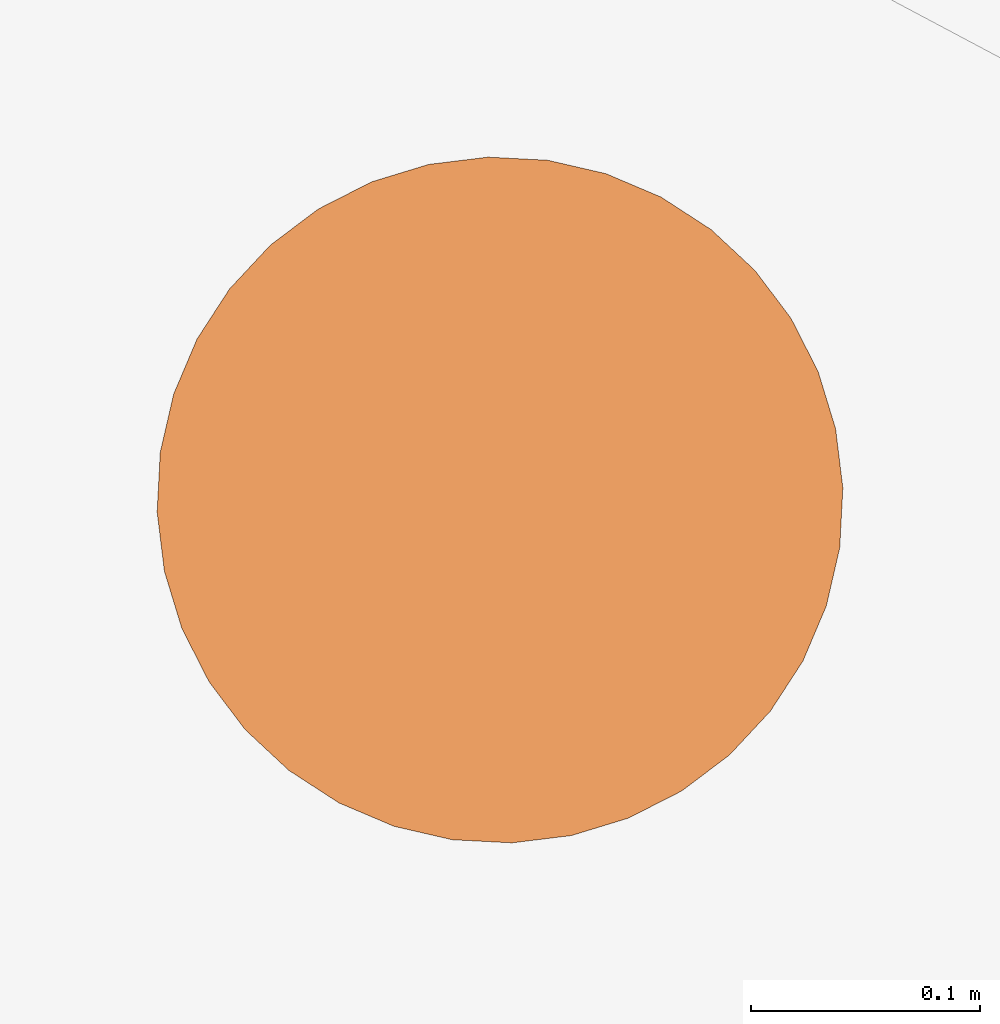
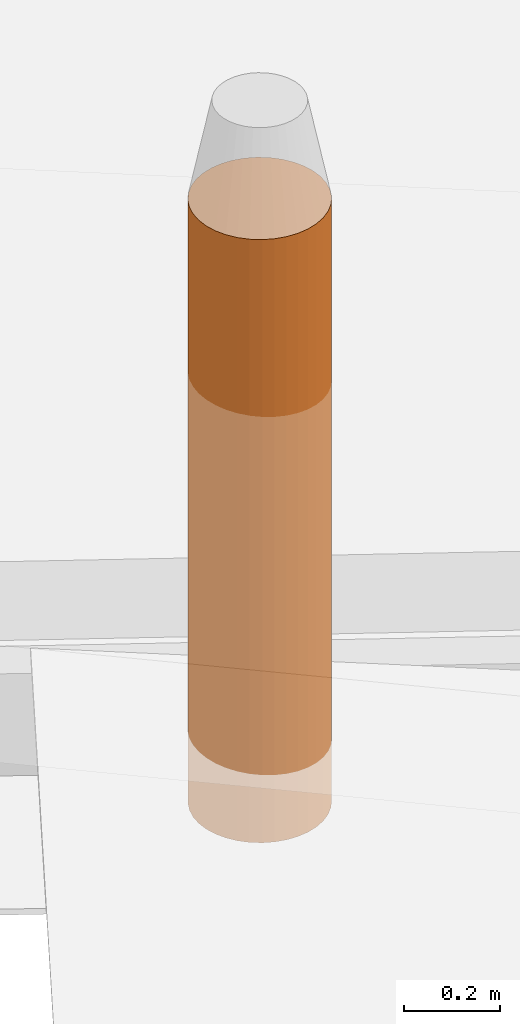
# One storey, part 3 of 4: 1 proxy.
"""IFC2X3 building model written with IfcOpenShell, lengths in metres."""

from ifc_helpers import new_model, entity, si_unit, converted_unit, derived_unit, money_unit, direction, frame, origin_with_axes, place, context, subcontext, project, spatial, faceted_brep, type_object, element, save


model = new_model("IFC2X3")

# Units and contexts
model_context = context("Model", 3, precision=1e-05, world=origin_with_axes(), true_north=direction((0.0, 1.0)))
body_context = subcontext(model_context, "Body", "Model", "MODEL_VIEW")
ifc_project = project(units=[si_unit("LENGTHUNIT", "METRE"), si_unit("AREAUNIT", "SQUARE_METRE"), si_unit("VOLUMEUNIT", "CUBIC_METRE"), converted_unit("PLANEANGLEUNIT", "DEGREE", entity("IfcPlaneAngleMeasure", 0.0174532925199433), si_unit("PLANEANGLEUNIT", "RADIAN"), dimensions=[0, 0, 0, 0, 0, 0, 0]), money_unit("CHF"), converted_unit("TIMEUNIT", "Year", entity("IfcTimeMeasure", 31557600.0), si_unit("TIMEUNIT", "SECOND"), dimensions=[0, 0, 1, 0, 0, 0, 0]), si_unit("MASSUNIT", "GRAM", prefix="KILO"), si_unit("THERMODYNAMICTEMPERATUREUNIT", "DEGREE_CELSIUS"), si_unit("LUMINOUSINTENSITYUNIT", "LUMEN"), si_unit("ENERGYUNIT", "JOULE", prefix="MEGA"), derived_unit("THERMALCONDUCTANCEUNIT", [(si_unit("POWERUNIT", "WATT"), 1), (si_unit("LENGTHUNIT", "METRE"), -1), (si_unit("THERMODYNAMICTEMPERATUREUNIT", "KELVIN"), -1)]), derived_unit("SPECIFICHEATCAPACITYUNIT", [(si_unit("ENERGYUNIT", "JOULE"), 1), (si_unit("MASSUNIT", "GRAM", prefix="KILO"), -1), (si_unit("THERMODYNAMICTEMPERATUREUNIT", "KELVIN"), -1)]), derived_unit("MASSDENSITYUNIT", [(si_unit("MASSUNIT", "GRAM", prefix="KILO"), 1), (si_unit("VOLUMEUNIT", "CUBIC_METRE"), -1)])], contexts=[model_context])

# Site, building, storey
site_placement = place(None, frame((0.0, 0.0, 0.0), z_axis=(0.0, 0.0, 1.0), x_axis=(-0.4694715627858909, -0.8829475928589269, 0.0)))
site = spatial("IfcSite", under=ifc_project, at=site_placement, Name="Site", CompositionType="ELEMENT")
building_placement = place(site_placement, origin_with_axes())
building = spatial("IfcBuilding", under=site, at=building_placement, Name="Bâtiment", CompositionType="ELEMENT")
storey_placement = place(building_placement, frame((0.0, 0.0, 2.7), z_axis=(0.0, 0.0, 1.0), x_axis=(1.0, 0.0, 0.0)))
storey = spatial("IfcBuildingStorey", under=building, at=storey_placement, Name="toiture", CompositionType="ELEMENT", Elevation=2.7)

# Proxy
building_element_proxy_type = type_object("IfcBuildingElementProxyType", Name="Cylindre 27", PredefinedType="NOTDEFINED")
proxy_placement = place(storey_placement, frame((134.302970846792, -836.3858584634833, 0.6035504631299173), z_axis=(0.0, 0.0, 1.0), x_axis=(0.0, -1.0, 0.0)))
element("IfcBuildingElementProxy", 1, at=proxy_placement, inside=storey, type_object=building_element_proxy_type, Name="Obj.-482", context=body_context, shape_type="Brep", body=[
    faceted_brep([(-0.1477211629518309, -0.02604722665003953, 0.0), (-0.1477211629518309, -0.02604722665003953, 1.535797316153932), (-0.15, 0.0, 1.535797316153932), (-0.15, 0.0, 0.0), (-0.140953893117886, -0.05130302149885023, 0.0), (-0.140953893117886, -0.05130302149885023, 1.535797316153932), (-0.1299038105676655, -0.07499999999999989, 1.535797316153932), (-0.1149066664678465, -0.09641814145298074, 1.535797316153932), (-0.09641814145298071, -0.1149066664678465, 1.535797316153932), (-0.07499999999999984, -0.1299038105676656, 1.535797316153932), (-0.05130302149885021, -0.140953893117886, 1.535797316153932), (-0.02604722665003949, -0.147721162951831, 1.535797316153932), (0.0, -0.1499999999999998, 1.535797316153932), (0.02604722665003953, -0.147721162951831, 1.535797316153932), (0.05130302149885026, -0.1409538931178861, 1.535797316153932), (0.07499999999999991, -0.1299038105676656, 1.535797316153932), (0.09641814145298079, -0.1149066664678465, 1.535797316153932), (0.1149066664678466, -0.09641814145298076, 1.535797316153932), (0.1299038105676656, -0.0749999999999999, 1.535797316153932), (0.1409538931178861, -0.05130302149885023, 1.535797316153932), (0.1477211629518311, -0.02604722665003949, 1.535797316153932), (0.1499999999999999, 0.0, 1.535797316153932), (0.1477211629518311, 0.02604722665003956, 1.535797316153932), (0.1409538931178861, 0.0513030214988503, 1.535797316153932), (0.1299038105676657, 0.07499999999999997, 1.535797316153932), (0.1149066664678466, 0.09641814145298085, 1.535797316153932), (0.09641814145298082, 0.1149066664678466, 1.535797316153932), (0.07499999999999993, 0.1299038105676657, 1.535797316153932), (0.05130302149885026, 0.1409538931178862, 1.535797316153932), (0.02604722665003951, 0.1477211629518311, 1.535797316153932), (0.0, 0.1499999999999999, 1.535797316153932), (-0.02604722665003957, 0.1477211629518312, 1.535797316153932), (-0.05130302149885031, 0.1409538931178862, 1.535797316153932), (-0.075, 0.1299038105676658, 1.535797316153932), (-0.09641814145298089, 0.1149066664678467, 1.535797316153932), (-0.1149066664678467, 0.09641814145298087, 1.535797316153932), (-0.1299038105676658, 0.07499999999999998, 1.535797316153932), (-0.1409538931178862, 0.0513030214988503, 1.535797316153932), (-0.1477211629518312, 0.02604722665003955, 1.535797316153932), (-0.1477211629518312, 0.02604722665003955, 0.0), (-0.1409538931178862, 0.0513030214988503, 0.0), (-0.1299038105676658, 0.07499999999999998, 0.0), (-0.1149066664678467, 0.09641814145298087, 0.0), (-0.09641814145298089, 0.1149066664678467, 0.0), (-0.075, 0.1299038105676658, 0.0), (-0.05130302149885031, 0.1409538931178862, 0.0), (-0.02604722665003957, 0.1477211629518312, 0.0), (0.0, 0.1499999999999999, 0.0), (0.02604722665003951, 0.1477211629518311, 0.0), (0.05130302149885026, 0.1409538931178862, 0.0), (0.07499999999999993, 0.1299038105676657, 0.0), (0.09641814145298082, 0.1149066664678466, 0.0), (0.1149066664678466, 0.09641814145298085, 0.0), (0.1299038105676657, 0.07499999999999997, 0.0), (0.1409538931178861, 0.0513030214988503, 0.0), (0.1477211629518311, 0.02604722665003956, 0.0), (0.1499999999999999, 0.0, 0.0), (0.1477211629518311, -0.02604722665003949, 0.0), (0.1409538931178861, -0.05130302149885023, 0.0), (0.1299038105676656, -0.0749999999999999, 0.0), (0.1149066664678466, -0.09641814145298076, 0.0), (0.09641814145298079, -0.1149066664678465, 0.0), (0.07499999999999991, -0.1299038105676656, 0.0), (0.05130302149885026, -0.1409538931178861, 0.0), (0.02604722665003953, -0.147721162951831, 0.0), (0.0, -0.1499999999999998, 0.0), (-0.02604722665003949, -0.147721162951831, 0.0), (-0.05130302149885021, -0.140953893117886, 0.0), (-0.07499999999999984, -0.1299038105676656, 0.0), (-0.09641814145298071, -0.1149066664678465, 0.0), (-0.1149066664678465, -0.09641814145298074, 0.0), (-0.1299038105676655, -0.07499999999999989, 0.0)], [[[0, 1, 2, 3]], [[4, 5, 1, 0]], [[1, 5, 6, 7, 8, 9, 10, 11, 12, 13, 14, 15, 16, 17, 18, 19, 20, 21, 22, 23, 24, 25, 26, 27, 28, 29, 30, 31, 32, 33, 34, 35, 36, 37, 38, 2]], [[3, 2, 38, 39]], [[0, 3, 39, 40, 41, 42, 43, 44, 45, 46, 47, 48, 49, 50, 51, 52, 53, 54, 55, 56, 57, 58, 59, 60, 61, 62, 63, 64, 65, 66, 67, 68, 69, 70, 71, 4]], [[71, 6, 5, 4]], [[70, 7, 6, 71]], [[69, 8, 7, 70]], [[68, 9, 8, 69]], [[67, 10, 9, 68]], [[66, 11, 10, 67]], [[65, 12, 11, 66]], [[64, 13, 12, 65]], [[63, 14, 13, 64]], [[62, 15, 14, 63]], [[61, 16, 15, 62]], [[60, 17, 16, 61]], [[59, 18, 17, 60]], [[58, 19, 18, 59]], [[57, 20, 19, 58]], [[56, 21, 20, 57]], [[55, 22, 21, 56]], [[54, 23, 22, 55]], [[53, 24, 23, 54]], [[52, 25, 24, 53]], [[51, 26, 25, 52]], [[50, 27, 26, 51]], [[49, 28, 27, 50]], [[48, 29, 28, 49]], [[47, 30, 29, 48]], [[46, 31, 30, 47]], [[45, 32, 31, 46]], [[44, 33, 32, 45]], [[43, 34, 33, 44]], [[42, 35, 34, 43]], [[41, 36, 35, 42]], [[40, 37, 36, 41]], [[39, 38, 37, 40]]]),
])

save(model, "model.ifc")
